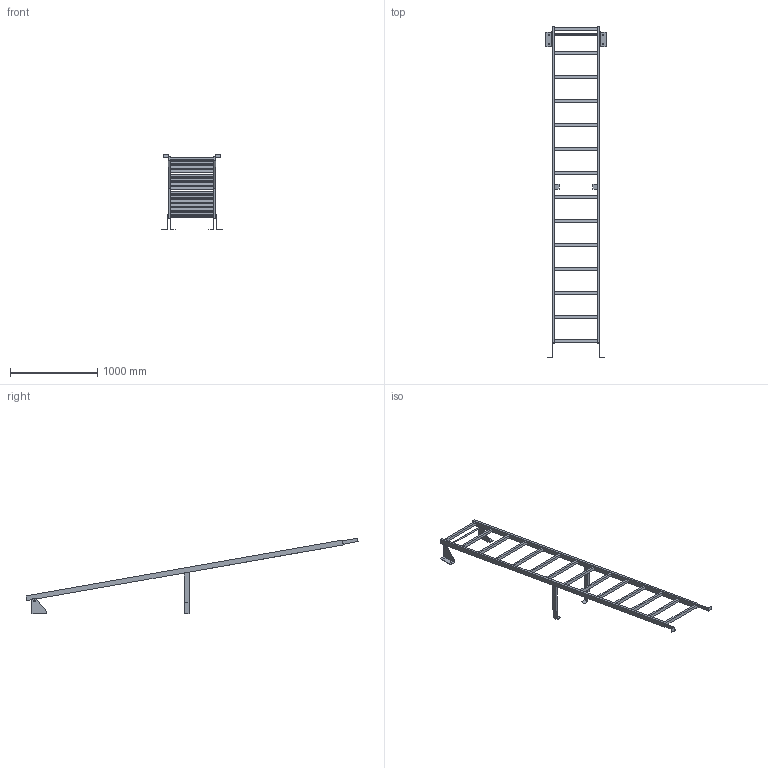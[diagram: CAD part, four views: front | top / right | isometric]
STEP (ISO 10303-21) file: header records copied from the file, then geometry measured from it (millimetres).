
FILE_DESCRIPTION((''),'2;1');
FILE_NAME('52309780','2024-10-17T09:05:08',('wep'),('HUBER SE'),'CREO PARAMETRIC BY PTC INC, 2022162','CREO PARAMETRIC BY PTC INC, 2022162','');
FILE_SCHEMA(('AUTOMOTIVE_DESIGN { 1 0 10303 214 1 1 1 1 }'));
Length unit declared in the file: millimetre
Products named in the file (1): 52309780
Bounding box: 690 x 3813.72 x 869.9 mm (x, y, z)
Volume: 18306309.7 mm3; surface area: 2423114.2 mm2
Topology: 6 solids, 6 shells, 140 faces, 372 edges, 248 vertices
Faces by surface type: plane 124, cylinder 16
Entity records: 4923 total; most frequent: CARTESIAN_POINT 762, ORIENTED_EDGE 744, DIRECTION 684, EDGE_CURVE 372, VECTOR 340, LINE 340, VERTEX_POINT 248, EDGE_LOOP 182
